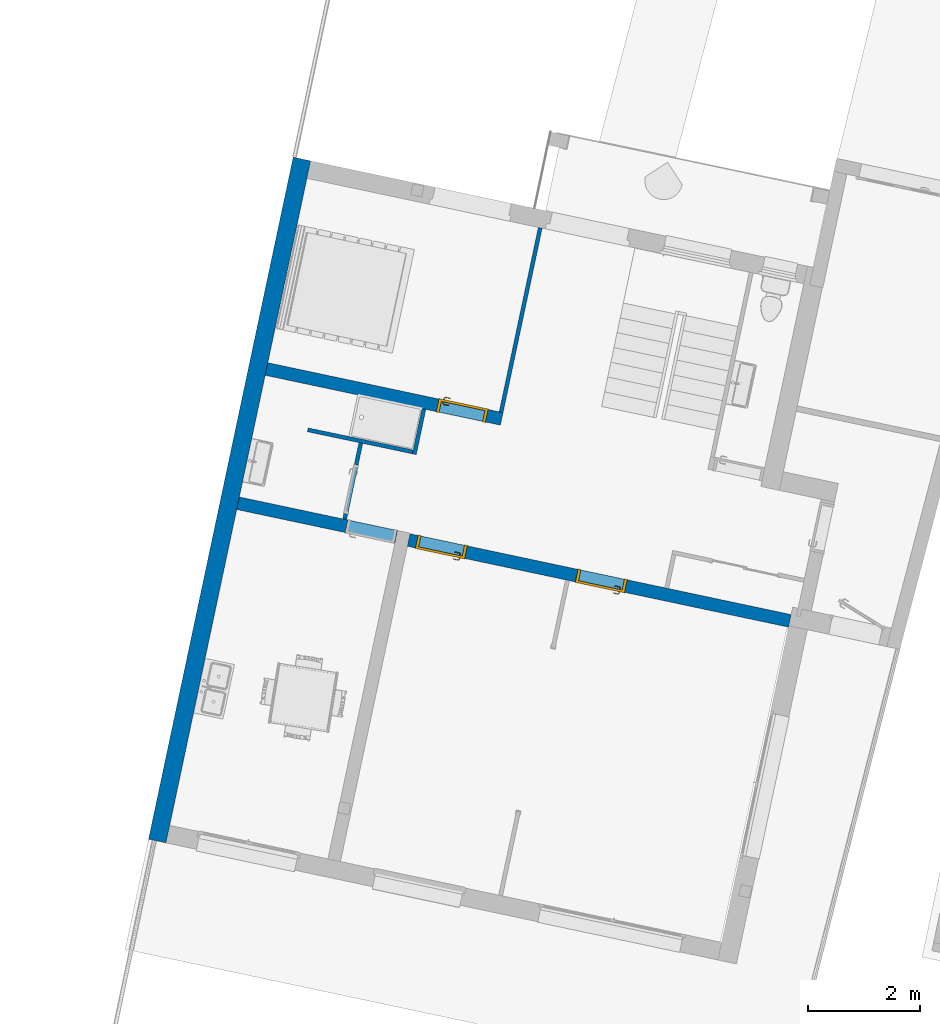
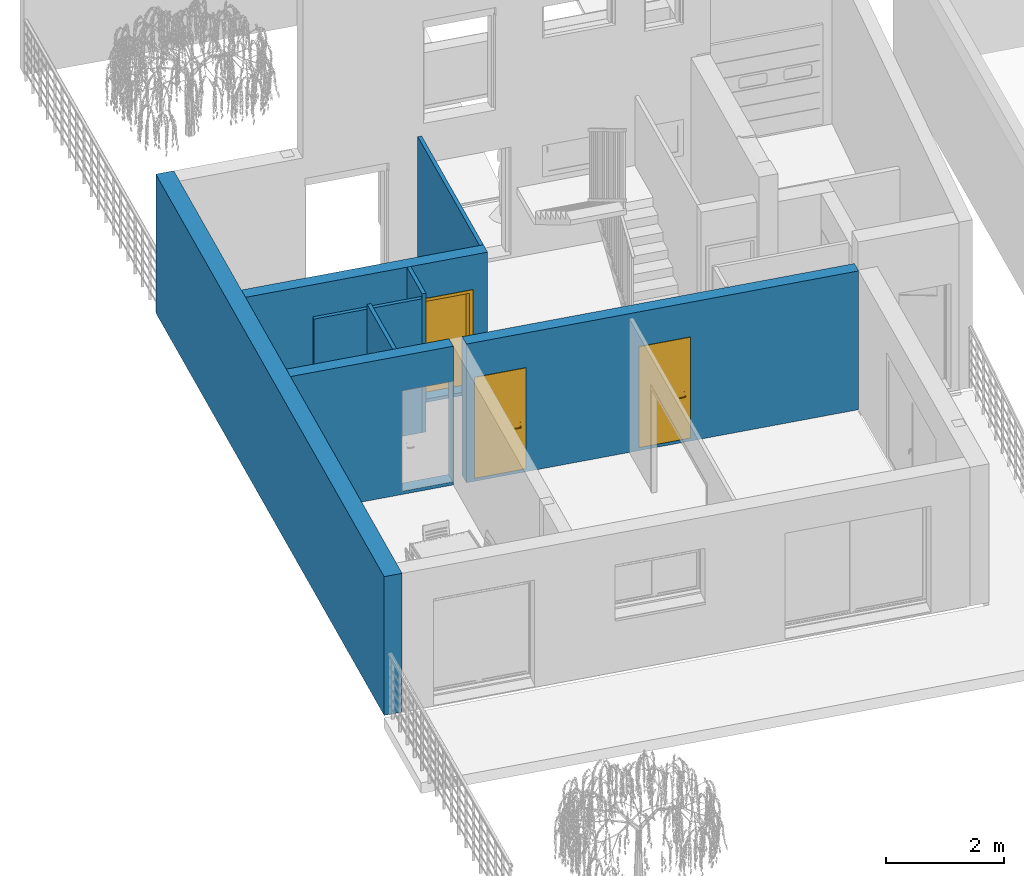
"""IFC2X3 building model written with IfcOpenShell, lengths in metres."""

from ifc_helpers import new_model, entity, si_unit, converted_unit, derived_unit, direction, frame, frame_2d, origin, place, context, subcontext, project, spatial, polyline, rectangle, outline, extrude, faceted_brep, source, transform, mapped, material, material_list, layer, layer_set, layer_usage, type_object, type_shapes, element, fill, save


model = new_model("IFC2X3")

# Units and contexts
model_context = context("Model", 3, precision=1e-05, world=origin(), true_north=direction((6.12303176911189e-17, 1.0)))
body_context = subcontext(model_context, "Body", "Model", "MODEL_VIEW")
ifc_project = project(units=[si_unit("LENGTHUNIT", "METRE"), si_unit("AREAUNIT", "SQUARE_METRE"), si_unit("VOLUMEUNIT", "CUBIC_METRE"), converted_unit("PLANEANGLEUNIT", "DEGREE", entity("IfcRatioMeasure", 0.0174532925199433), si_unit("PLANEANGLEUNIT", "RADIAN"), dimensions=[0, 0, 0, 0, 0, 0, 0]), si_unit("MASSUNIT", "GRAM", prefix="KILO"), derived_unit("MASSDENSITYUNIT", [(si_unit("MASSUNIT", "GRAM", prefix="KILO"), 1), (si_unit("LENGTHUNIT", "METRE"), -3)]), si_unit("TIMEUNIT", "SECOND"), si_unit("FREQUENCYUNIT", "HERTZ"), si_unit("THERMODYNAMICTEMPERATUREUNIT", "DEGREE_CELSIUS"), derived_unit("THERMALTRANSMITTANCEUNIT", [(si_unit("MASSUNIT", "GRAM", prefix="KILO"), 1), (si_unit("THERMODYNAMICTEMPERATUREUNIT", "KELVIN"), -1), (si_unit("TIMEUNIT", "SECOND"), -3)]), derived_unit("VOLUMETRICFLOWRATEUNIT", [(si_unit("LENGTHUNIT", "METRE"), 3), (si_unit("TIMEUNIT", "SECOND"), -1)]), si_unit("ELECTRICCURRENTUNIT", "AMPERE"), si_unit("ELECTRICVOLTAGEUNIT", "VOLT"), si_unit("POWERUNIT", "WATT"), si_unit("FORCEUNIT", "NEWTON", prefix="KILO"), si_unit("ILLUMINANCEUNIT", "LUX"), si_unit("LUMINOUSFLUXUNIT", "LUMEN"), si_unit("LUMINOUSINTENSITYUNIT", "CANDELA"), derived_unit("USERDEFINED", [(si_unit("MASSUNIT", "GRAM", prefix="KILO"), -1), (si_unit("LENGTHUNIT", "METRE"), -2), (si_unit("TIMEUNIT", "SECOND"), 3), (si_unit("LUMINOUSFLUXUNIT", "LUMEN"), 1)]), derived_unit("LINEARVELOCITYUNIT", [(si_unit("LENGTHUNIT", "METRE"), 1), (si_unit("TIMEUNIT", "SECOND"), -1)]), si_unit("PRESSUREUNIT", "PASCAL"), derived_unit("USERDEFINED", [(si_unit("LENGTHUNIT", "METRE"), -2), (si_unit("MASSUNIT", "GRAM", prefix="KILO"), 1), (si_unit("TIMEUNIT", "SECOND"), -2)])], contexts=[model_context])

# Site, building, storey
site_placement = place(None, origin())
site = spatial("IfcSite", under=ifc_project, at=site_placement, Name="Default", CompositionType="ELEMENT")
building_placement = place(site_placement, origin())
building = spatial("IfcBuilding", under=site, at=building_placement, CompositionType="ELEMENT")
storey_1_placement = place(building_placement, frame((0.0, 0.0, -0.0686871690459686)))
storey_1 = spatial("IfcBuildingStorey", under=building, at=storey_1_placement, Name="RDC", CompositionType="ELEMENT", Elevation=-0.0686871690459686)

# Walls
ifc_material_1 = material(Name="Enduit blanc cassé2")
ifc_layer_1 = layer(ifc_material_1, 0.02)
ifc_material_2 = material(Name="Parpaing")
ifc_layer_2 = layer(ifc_material_2, 0.2)
ifc_material_3 = material(Name="Isolant")
ifc_layer_3 = layer(ifc_material_3, 0.1)
ifc_layer_set_1 = layer_set([ifc_layer_1, ifc_layer_2, ifc_layer_3], Name="Mur de base:Ext. Parpaing 20 + Isolant 10 enduit blanc cassé")
ifc_layer_usage_1 = layer_usage(ifc_layer_set_1, "AXIS2", "POSITIVE", -0.16)
wall_type_1 = type_object("IfcWallType", Name="Mur de base:Ext. Parpaing 20 + Isolant 10 enduit blanc cassé", PredefinedType="STANDARD", material=ifc_layer_set_1)
wall_1_placement = place(storey_1_placement, frame((-19.6644701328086, 87.2507008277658, 0.0), z_axis=(0.0, 0.0, 1.0), x_axis=(-0.207484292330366, -0.978238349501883, 0.0)))
element("IfcWallStandardCase", 1, at=wall_1_placement, inside=storey_1, type_object=wall_type_1, material=ifc_layer_usage_1, Name="Mur de base:Ext. Parpaing 20 + Isolant 10 enduit blanc cassé", ObjectType="Mur de base:Ext. Parpaing 20 + Isolant 10 enduit blanc cassé", context=body_context, shape_type="SweptSolid", body=[
    extrude(rectangle(XDim=12.5, YDim=0.319999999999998, at=frame_2d((6.25000000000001, -3.60822483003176e-16), x_axis=(-1.0, 0.0))), origin(), (0.0, 0.0, 1.0), 2.86868716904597),
])
ifc_material_4 = material(Name="Blanc - Element de salle de bains")
ifc_layer_4 = layer(ifc_material_4, 0.07)
ifc_layer_set_2 = layer_set([ifc_layer_4], Name="Mur de base:Int.  Platre 70 mm en blanc")
ifc_layer_usage_2 = layer_usage(ifc_layer_set_2, "AXIS2", "POSITIVE", -0.035)
wall_type_2 = type_object("IfcWallType", Name="Mur de base:Int.  Platre 70 mm en blanc", PredefinedType="STANDARD", material=ifc_layer_set_2)
wall_2_placement = place(storey_1_placement, frame((-15.3910718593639, 86.0171946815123, 0.0), z_axis=(0.0, 0.0, 1.0), x_axis=(-0.207484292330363, -0.978238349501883, 0.0)))
element("IfcWallStandardCase", 2, at=wall_2_placement, inside=storey_1, type_object=wall_type_2, material=ifc_layer_usage_2, Name="Mur de base:Int.  Platre 70 mm en blanc", ObjectType="Mur de base:Int.  Platre 70 mm en blanc", context=body_context, shape_type="SweptSolid", body=[
    extrude(rectangle(XDim=3.38021271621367, YDim=0.069999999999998, at=frame_2d((1.69010635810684, 1.0096090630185e-15), x_axis=(-1.0, 0.0))), origin(), (0.0, 0.0, 1.0), 2.86868716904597),
])

# Wall, opening
ifc_layer_usage_3 = layer_usage(ifc_layer_set_2, "AXIS2", "POSITIVE", -0.035)
wall_3_placement = place(storey_1_placement, frame((-18.607890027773, 82.1591692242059, 0.0), z_axis=(0.0, 0.0, 1.0), x_axis=(-0.207484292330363, -0.978238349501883, 0.0)))
wall_3 = element("IfcWallStandardCase", 3, at=wall_3_placement, inside=storey_1, type_object=wall_type_2, material=ifc_layer_usage_3, Name="Mur de base:Int.  Platre 70 mm en blanc", ObjectType="Mur de base:Int.  Platre 70 mm en blanc", context=body_context, shape_type="SweptSolid", body=[
    extrude(outline(polyline([(1.39912705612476, -0.0350000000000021), (1.39912705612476, 0.0349999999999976), (0.0, 0.034999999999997), (0.00013794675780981, -0.0350000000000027), (1.39912705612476, -0.0350000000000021)])), origin(), (0.0, 0.0, 1.0), 2.86868716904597),
])
opening_1_placement = place(wall_3_placement, frame((1.29912721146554, 0.0350000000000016, 0.0686871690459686)))
element("IfcOpeningElement", 4, at=opening_1_placement, cuts=wall_3, Name="FR_Simple (R):83 x 204 - (80):1", ObjectType="Opening", context=body_context, shape_type="SweptSolid", body=[
    extrude(rectangle(XDim=2.075, YDim=0.9, at=frame_2d((1.0375, 0.450000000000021), x_axis=(1.0, 0.0))), frame((0.0, 0.0, 0.0), z_axis=(0.0, -1.0, 0.0), x_axis=(0.0, 0.0, 1.0)), (0.0, 0.0, 1.0), 0.07),
])

# Walls
ifc_layer_usage_4 = layer_usage(ifc_layer_set_2, "AXIS2", "POSITIVE", -0.035)
wall_4_placement = place(storey_1_placement, frame((-17.4767361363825, 82.7690393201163, 0.0), z_axis=(0.0, 0.0, 1.0), x_axis=(-0.207484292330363, -0.978238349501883, 0.0)))
element("IfcWallStandardCase", 5, at=wall_4_placement, inside=storey_1, type_object=wall_type_2, material=ifc_layer_usage_4, Name="Mur de base:Int.  Platre 70 mm en blanc", ObjectType="Mur de base:Int.  Platre 70 mm en blanc", context=body_context, shape_type="SweptSolid", body=[
    extrude(outline(polyline([(0.829501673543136, -0.0349999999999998), (0.829363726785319, 0.0349999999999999), (0.0, 0.0350000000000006), (0.0, -0.0349999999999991), (0.759501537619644, -0.0350000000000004), (0.829501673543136, -0.0349999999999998)])), origin(), (0.0, 0.0, 1.0), 2.86868716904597),
])
ifc_layer_usage_5 = layer_usage(ifc_layer_set_2, "AXIS2", "POSITIVE", -0.035)
wall_5_placement = place(storey_1_placement, frame((-17.6757535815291, 81.9990751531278, 0.0), z_axis=(0.0, 0.0, 1.0), x_axis=(-0.978645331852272, 0.205556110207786, 0.0)))
element("IfcWallStandardCase", 6, at=wall_5_placement, inside=storey_1, type_object=wall_type_2, material=ifc_layer_usage_5, Name="Mur de base:Int.  Platre 70 mm en blanc", ObjectType="Mur de base:Int.  Platre 70 mm en blanc", context=body_context, shape_type="SweptSolid", body=[
    extrude(outline(polyline([(1.92499993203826, -0.0349999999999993), (1.92499993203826, 0.035000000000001), (0.980139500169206, 0.0350000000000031), (0.910139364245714, 0.0349999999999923), (0.000137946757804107, 0.0350000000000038), (0.0, -0.0350000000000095), (1.92499993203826, -0.0349999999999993)])), origin(), (0.0, 0.0, 1.0), 2.76868716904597),
])

# Wall, opening
ifc_layer_5 = layer(ifc_material_1, 0.015)
ifc_layer_6 = layer(ifc_material_2, 0.2)
ifc_layer_7 = layer(ifc_material_1, 0.015)
ifc_layer_set_3 = layer_set([ifc_layer_5, ifc_layer_6, ifc_layer_7], Name="Mur de base:Ext. Parpaing 20 + 2 x 1.5")
ifc_layer_usage_6 = layer_usage(ifc_layer_set_3, "AXIS2", "POSITIVE", -0.115)
wall_type_3 = type_object("IfcWallType", Name="Mur de base:Ext. Parpaing 20 + 2 x 1.5", PredefinedType="STANDARD", material=ifc_layer_set_3)
wall_6_placement = place(storey_1_placement, frame((-16.082035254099, 82.5907816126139, 0.0), z_axis=(0.0, 0.0, 1.0), x_axis=(-0.978238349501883, 0.207484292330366, 0.0)))
wall_6 = element("IfcWallStandardCase", 7, at=wall_6_placement, inside=storey_1, type_object=wall_type_3, material=ifc_layer_usage_6, Name="Mur de base:Ext. Parpaing 20 + 2 x 1.5", ObjectType="Mur de base:Ext. Parpaing 20 + 2 x 1.5", context=body_context, shape_type="SweptSolid", body=[
    extrude(rectangle(XDim=4.31133522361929, YDim=0.229999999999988, at=frame_2d((2.15566761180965, -1.08246744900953e-15), x_axis=(-1.0, 0.0))), origin(), (0.0, 0.0, 1.0), 2.86868716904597),
])
opening_2_placement = place(wall_6_placement, frame((1.17388527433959, 0.115000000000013, 0.0686871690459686)))
opening_2 = element("IfcOpeningElement", 8, at=opening_2_placement, cuts=wall_6, Name="FR_Simple (R):83 x 204 - (80):1", ObjectType="Opening", context=body_context, shape_type="SweptSolid", body=[
    extrude(rectangle(XDim=2.075, YDim=0.9, at=frame_2d((1.0375, 0.45), x_axis=(1.0, 0.0))), frame((0.0, 0.0, 0.0), z_axis=(0.0, -1.0, 0.0), x_axis=(0.0, 0.0, 1.0)), (0.0, 0.0, 1.0), 0.23),
])

# Storey
storey_2_placement = place(building_placement, origin())
storey_2 = spatial("IfcBuildingStorey", under=building, at=storey_2_placement, Name="Plan des fondations  Maisons 1 et 2", CompositionType="ELEMENT", Elevation=0.0)

# Door
ifc_material_5 = material(Name="Poignée Porte")
ifc_material_6 = material(Name="Dormants Portes")
ifc_material_7 = material(Name="Panneaux Portes")
ifc_material_list_1 = material_list([ifc_material_5, ifc_material_6, ifc_material_7])
ifc_material_list_2 = material_list([ifc_material_5, ifc_material_6, ifc_material_7])
door_style = type_object("IfcDoorStyle", Name="83 x 204 - (80)", ConstructionType="NOTDEFINED", OperationType="SINGLE_SWING_RIGHT", ParameterTakesPrecedence=False, Sizeable=False, material=ifc_material_list_2)
shared_shape = source(origin(), body_context, "Body", "Brep", [
    faceted_brep([(0.810000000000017, -0.0130000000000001, 0.764641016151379), (0.820352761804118, -0.0130000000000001, 0.766003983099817), (0.830000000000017, -0.0130000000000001, 0.770000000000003), (0.830000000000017, -0.0130000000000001, 0.980000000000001), (0.820352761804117, -0.0130000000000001, 0.983996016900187), (0.810000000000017, -0.0130000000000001, 0.985358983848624), (0.799647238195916, -0.0130000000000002, 0.983996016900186), (0.790000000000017, -0.0130000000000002, 0.980000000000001), (0.790000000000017, -0.0130000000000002, 0.770000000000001), (0.799647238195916, -0.0130000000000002, 0.766003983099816), (0.830000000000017, -0.00800000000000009, 0.980000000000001), (0.830000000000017, -0.00800000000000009, 0.770000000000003), (0.820352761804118, -0.00800000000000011, 0.766003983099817), (0.810000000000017, -0.00800000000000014, 0.764641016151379), (0.799647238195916, -0.00800000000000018, 0.766003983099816), (0.790000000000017, -0.00800000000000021, 0.770000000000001), (0.790000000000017, -0.00800000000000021, 0.980000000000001), (0.799647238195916, -0.00800000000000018, 0.983996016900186), (0.810000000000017, -0.00800000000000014, 0.985358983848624), (0.820352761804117, -0.00800000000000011, 0.983996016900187)], [[[0, 1, 2, 3, 4, 5, 6, 7, 8, 9]], [[10, 11, 12, 13, 14, 15, 16, 17, 18, 19]], [[1, 12, 11, 2]], [[0, 13, 12, 1]], [[9, 14, 13, 0]], [[9, 8, 15, 14]], [[15, 8, 7, 16]], [[6, 17, 16, 7]], [[5, 18, 17, 6]], [[4, 19, 18, 5]], [[4, 3, 10, 19]], [[10, 3, 2, 11]]]),
    faceted_brep([(0.830000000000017, 0.0319999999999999, 0.770000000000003), (0.830000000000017, 0.0319999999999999, 0.980000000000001), (0.820352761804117, 0.0319999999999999, 0.983996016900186), (0.810000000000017, 0.0319999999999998, 0.985358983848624), (0.799647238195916, 0.0319999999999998, 0.983996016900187), (0.790000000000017, 0.0319999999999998, 0.980000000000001), (0.790000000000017, 0.0319999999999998, 0.770000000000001), (0.799647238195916, 0.0319999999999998, 0.766003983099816), (0.810000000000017, 0.0319999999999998, 0.764641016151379), (0.820352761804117, 0.0319999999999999, 0.766003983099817), (0.810000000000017, 0.0369999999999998, 0.985358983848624), (0.820352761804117, 0.0369999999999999, 0.983996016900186), (0.830000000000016, 0.0369999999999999, 0.980000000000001), (0.830000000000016, 0.0369999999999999, 0.770000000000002), (0.820352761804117, 0.0369999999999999, 0.766003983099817), (0.810000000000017, 0.0369999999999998, 0.764641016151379), (0.799647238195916, 0.0369999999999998, 0.766003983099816), (0.790000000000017, 0.0369999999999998, 0.770000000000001), (0.790000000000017, 0.0369999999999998, 0.980000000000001), (0.799647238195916, 0.0369999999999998, 0.983996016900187)], [[[0, 1, 2, 3, 4, 5, 6, 7, 8, 9]], [[10, 11, 12, 13, 14, 15, 16, 17, 18, 19]], [[4, 19, 18, 5]], [[3, 10, 19, 4]], [[2, 11, 10, 3]], [[2, 1, 12, 11]], [[12, 1, 0, 13]], [[9, 14, 13, 0]], [[8, 15, 14, 9]], [[7, 16, 15, 8]], [[7, 6, 17, 16]], [[17, 6, 5, 18]]]),
    faceted_brep([(0.807974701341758, -0.0130000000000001, 0.907780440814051), (0.812025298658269, -0.0130000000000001, 0.907780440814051), (0.816000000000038, -0.0130000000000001, 0.906999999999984), (0.816000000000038, -0.0130000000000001, 0.892999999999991), (0.812025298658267, -0.0130000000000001, 0.892219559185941), (0.807974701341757, -0.0130000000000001, 0.89221955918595), (0.80399999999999, -0.0130000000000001, 0.893000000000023), (0.803999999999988, -0.0130000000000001, 0.90699999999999), (0.812025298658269, -0.039004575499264, 0.907780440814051), (0.816000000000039, -0.0406509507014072, 0.906999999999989), (0.807974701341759, -0.0373267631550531, 0.907780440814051), (0.794298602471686, -0.0510028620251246, 0.907780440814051), (0.795976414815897, -0.0550534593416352, 0.907780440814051), (0.709142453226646, -0.0550534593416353, 0.90778044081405), (0.710820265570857, -0.0510028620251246, 0.90778044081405), (0.704342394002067, -0.0445249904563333, 0.90778044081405), (0.701478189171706, -0.0473891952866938, 0.90778044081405), (0.803999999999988, -0.0356803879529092, 0.90699999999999), (0.80399999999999, -0.0356803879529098, 0.893000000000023), (0.807974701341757, -0.0373267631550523, 0.89221955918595), (0.812025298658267, -0.0390045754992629, 0.89221955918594), (0.795976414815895, -0.0550534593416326, 0.89221955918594), (0.794298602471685, -0.0510028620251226, 0.89221955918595), (0.710820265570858, -0.0510028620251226, 0.89221955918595), (0.709142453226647, -0.0550534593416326, 0.89221955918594), (0.701478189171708, -0.0473891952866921, 0.89221955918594), (0.704342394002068, -0.044524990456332, 0.89221955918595), (0.816000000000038, -0.0406509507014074, 0.892999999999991), (0.797622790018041, -0.0590281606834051, 0.906999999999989), (0.792652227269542, -0.0470281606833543, 0.90699999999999), (0.792652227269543, -0.0470281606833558, 0.893000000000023), (0.79762279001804, -0.0590281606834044, 0.892999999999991), (0.752559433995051, -0.0531828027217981, 0.907878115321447), (0.757692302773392, -0.0590281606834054, 0.906999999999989), (0.707496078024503, -0.0590281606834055, 0.906999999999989), (0.752559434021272, -0.0470281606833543, 0.90699999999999), (0.712466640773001, -0.0470281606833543, 0.906999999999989), (0.752559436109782, -0.0470281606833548, 0.893000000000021), (0.712466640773, -0.0470281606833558, 0.893000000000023), (0.752559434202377, -0.0531828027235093, 0.892121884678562), (0.747426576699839, -0.0590281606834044, 0.892999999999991), (0.707496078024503, -0.0590281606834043, 0.892999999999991), (0.707152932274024, -0.0417144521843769, 0.89300000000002), (0.69866765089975, -0.0501997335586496, 0.892999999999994), (0.698667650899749, -0.0501997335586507, 0.906999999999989), (0.707152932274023, -0.0417144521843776, 0.906999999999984)], [[[0, 1, 2, 3, 4, 5, 6, 7]], [[2, 1, 8, 9]], [[1, 0, 10, 11, 12, 8]], [[13, 14, 15, 16]], [[0, 7, 17, 10]], [[18, 17, 7, 6]], [[5, 19, 18, 6]], [[5, 4, 20, 21, 22, 19]], [[23, 24, 25, 26]], [[3, 27, 20, 4]], [[9, 27, 3, 2]], [[9, 8, 12, 28]], [[10, 17, 29, 11]], [[30, 29, 17, 18]], [[18, 19, 22, 30]], [[20, 27, 31, 21]], [[28, 31, 27, 9]], [[12, 32, 33]], [[13, 33, 32]], [[33, 28, 12]], [[33, 13, 34]], [[11, 35, 32]], [[32, 12, 11]], [[32, 35, 14]], [[35, 11, 29]], [[36, 14, 35]], [[13, 32, 14]], [[30, 37, 38, 36, 35, 29]], [[39, 37, 22]], [[40, 41, 24]], [[40, 21, 31]], [[39, 21, 40]], [[23, 37, 39]], [[39, 24, 23]], [[30, 22, 37]], [[37, 23, 38]], [[21, 39, 22]], [[24, 39, 40]], [[31, 28, 33, 34, 41, 40]], [[42, 26, 25, 43, 44, 16, 15, 45]], [[13, 16, 44, 34]], [[36, 45, 15, 14]], [[42, 45, 36, 38]], [[38, 23, 26, 42]], [[24, 41, 43, 25]], [[44, 43, 41, 34]]]),
    faceted_brep([(0.812025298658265, 0.0369999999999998, 0.907780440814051), (0.807974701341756, 0.0369999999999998, 0.907780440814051), (0.803999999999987, 0.0369999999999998, 0.90699999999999), (0.803999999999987, 0.0369999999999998, 0.89300000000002), (0.807974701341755, 0.0369999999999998, 0.892219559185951), (0.812025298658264, 0.0369999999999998, 0.892219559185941), (0.816000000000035, 0.0369999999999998, 0.892999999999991), (0.816000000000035, 0.0369999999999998, 0.90699999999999), (0.803999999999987, 0.0594852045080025, 0.90699999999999), (0.803999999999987, 0.0594852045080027, 0.89300000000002), (0.807974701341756, 0.0611315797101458, 0.907780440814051), (0.812025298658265, 0.0628093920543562, 0.907780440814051), (0.795838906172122, 0.0789957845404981, 0.907780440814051), (0.794161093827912, 0.0749451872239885, 0.907780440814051), (0.71079312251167, 0.0749451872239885, 0.907780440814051), (0.70911531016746, 0.0789957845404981, 0.907780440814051), (0.701451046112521, 0.071331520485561, 0.907780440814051), (0.70431525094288, 0.0684673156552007, 0.907780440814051), (0.816000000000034, 0.0644557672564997, 0.90699999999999), (0.816000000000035, 0.0644557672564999, 0.892999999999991), (0.812025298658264, 0.0628093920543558, 0.892219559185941), (0.807974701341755, 0.0611315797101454, 0.892219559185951), (0.794161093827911, 0.0749451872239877, 0.892219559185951), (0.795838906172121, 0.0789957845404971, 0.892219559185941), (0.70911531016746, 0.0789957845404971, 0.89221955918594), (0.71079312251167, 0.0749451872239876, 0.89221955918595), (0.704315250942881, 0.0684673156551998, 0.89221955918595), (0.701451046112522, 0.07133152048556, 0.89221955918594), (0.792514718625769, 0.0709704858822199, 0.89300000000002), (0.792514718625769, 0.0709704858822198, 0.90699999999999), (0.797485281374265, 0.0829704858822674, 0.90699999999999), (0.797485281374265, 0.082970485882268, 0.892999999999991), (0.752477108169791, 0.0709704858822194, 0.90699999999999), (0.712439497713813, 0.0709704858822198, 0.90699999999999), (0.712439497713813, 0.0709704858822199, 0.89300000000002), (0.752477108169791, 0.0709704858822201, 0.89300000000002), (0.752477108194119, 0.0771249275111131, 0.907878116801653), (0.747399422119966, 0.0829704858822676, 0.90699999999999), (0.707468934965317, 0.0829704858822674, 0.90699999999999), (0.757554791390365, 0.0829704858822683, 0.892999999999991), (0.707468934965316, 0.082970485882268, 0.892999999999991), (0.752477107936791, 0.0771249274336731, 0.892121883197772), (0.698640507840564, 0.0741420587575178, 0.90699999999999), (0.698640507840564, 0.074142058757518, 0.892999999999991), (0.707125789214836, 0.0656567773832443, 0.89300000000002), (0.707125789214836, 0.0656567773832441, 0.90699999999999)], [[[0, 1, 2, 3, 4, 5, 6, 7]], [[8, 9, 3, 2]], [[1, 10, 8, 2]], [[1, 0, 11, 12, 13, 10]], [[14, 15, 16, 17]], [[7, 18, 11, 0]], [[18, 7, 6, 19]], [[6, 5, 20, 19]], [[5, 4, 21, 22, 23, 20]], [[24, 25, 26, 27]], [[4, 3, 9, 21]], [[28, 9, 8, 29]], [[8, 10, 13, 29]], [[18, 30, 12, 11]], [[31, 30, 18, 19]], [[19, 20, 23, 31]], [[21, 9, 28, 22]], [[28, 29, 32, 33, 34, 35]], [[36, 32, 13]], [[37, 38, 15]], [[37, 12, 30]], [[36, 12, 37]], [[14, 32, 36]], [[36, 15, 14]], [[29, 13, 32]], [[32, 14, 33]], [[12, 36, 13]], [[15, 36, 37]], [[30, 31, 39, 40, 38, 37]], [[23, 41, 39]], [[24, 39, 41]], [[39, 31, 23]], [[39, 24, 40]], [[22, 35, 41]], [[41, 23, 22]], [[41, 35, 25]], [[35, 22, 28]], [[34, 25, 35]], [[24, 41, 25]], [[17, 16, 42, 43, 27, 26, 44, 45]], [[44, 34, 33, 45]], [[33, 14, 17, 45]], [[15, 38, 42, 16]], [[42, 38, 40, 43]], [[24, 27, 43, 40]], [[34, 44, 26, 25]]]),
    faceted_brep([(0.900000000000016, 0.0, 0.0), (0.910000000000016, 0.0, 0.0), (0.910000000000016, -0.00799999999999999, 0.0), (0.865000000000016, -0.00799999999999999, 0.0), (0.865000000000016, 0.032, 0.0), (0.850000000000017, 0.032, 0.0), (0.850000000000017, 0.238000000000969, 0.0), (0.910000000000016, 0.238000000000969, 0.0), (0.910000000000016, 0.23000000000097, 0.0), (0.900000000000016, 0.23000000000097, 0.0), (0.900000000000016, 0.23000000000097, 2.075), (0.900000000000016, 0.0, 2.075), (0.910000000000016, 0.23000000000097, 2.085), (-0.00999999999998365, 0.23000000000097, 2.085), (-0.00999999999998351, 0.23000000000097, 0.0), (0.0, 0.23000000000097, 0.0), (0.0, 0.23000000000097, 2.075), (0.910000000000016, 0.238000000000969, 2.085), (0.850000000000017, 0.238000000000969, 2.025), (0.0500000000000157, 0.238000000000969, 2.025), (0.0500000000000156, 0.238000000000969, 0.0), (-0.00999999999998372, 0.238000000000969, 0.0), (-0.00999999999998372, 0.238000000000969, 2.085), (0.850000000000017, 0.032, 2.025), (0.865000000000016, 0.032, 2.04), (0.0350000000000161, 0.032, 2.04), (0.0350000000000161, 0.032, 0.0), (0.0500000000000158, 0.032, 0.0), (0.0500000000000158, 0.032, 2.025), (0.865000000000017, -0.00799999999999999, 2.04), (0.910000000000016, -0.00799999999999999, 2.085), (-0.00999999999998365, -0.00799999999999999, 2.085), (-0.00999999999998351, -0.00799999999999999, 0.0), (0.0350000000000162, -0.00799999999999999, 0.0), (0.0350000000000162, -0.00799999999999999, 2.04), (0.910000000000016, 0.0, 2.085), (0.0, 0.0, 2.075), (0.0, 0.0, 0.0), (-0.00999999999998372, 0.0, 0.0), (-0.00999999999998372, 0.0, 2.085)], [[[0, 1, 2, 3, 4, 5, 6, 7, 8, 9]], [[9, 10, 11, 0]], [[8, 12, 13, 14, 15, 16, 10, 9]], [[7, 17, 12, 8]], [[6, 18, 19, 20, 21, 22, 17, 7]], [[5, 23, 18, 6]], [[4, 24, 25, 26, 27, 28, 23, 5]], [[3, 29, 24, 4]], [[2, 30, 31, 32, 33, 34, 29, 3]], [[1, 35, 30, 2]], [[0, 11, 36, 37, 38, 39, 35, 1]], [[10, 16, 36, 11]], [[17, 22, 13, 12]], [[23, 28, 19, 18]], [[29, 34, 25, 24]], [[35, 39, 31, 30]], [[37, 15, 14, 21, 20, 27, 26, 33, 32, 38]], [[16, 15, 37, 36]], [[22, 21, 14, 13]], [[28, 27, 20, 19]], [[34, 33, 26, 25]], [[39, 38, 32, 31]]]),
    faceted_brep([(0.865000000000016, -0.00799999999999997, 2.04), (0.0350000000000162, -0.00799999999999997, 2.04), (0.0350000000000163, -0.00799999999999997, 0.0), (0.865000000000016, -0.00799999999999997, 0.0), (0.865000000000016, 0.032, 2.04), (0.865000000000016, 0.032, 0.0), (0.0350000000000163, 0.032, 0.0), (0.0350000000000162, 0.032, 2.04)], [[[0, 1, 2, 3]], [[4, 5, 6, 7]], [[3, 5, 4, 0]], [[2, 6, 5, 3]], [[1, 7, 6, 2]], [[0, 4, 7, 1]]]),
])
type_shapes(door_style, [shared_shape])
door_1_placement = place(opening_2_placement, frame((-0.900000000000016, -0.230000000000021, 0.0)))
door_1 = element("IfcDoor", 9, at=door_1_placement, inside=storey_2, type_object=door_style, material=ifc_material_list_1, Name="FR_Simple (R):83 x 204 - (80)", ObjectType="FR_Simple (R):83 x 204 - (80)", OverallHeight=2.075, OverallWidth=0.9, context=body_context, shape_type="MappedRepresentation", body=[
    mapped(shared_shape, transform((0.0, 0.0, 0.0), scale=1.0)),
])

fill(opening_2, door_1)

# Wall, openings, doors
ifc_layer_usage_7 = layer_usage(ifc_layer_set_3, "AXIS2", "NEGATIVE", 0.115)
wall_7_placement = place(storey_1_placement, frame((-17.750236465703, 80.419228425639, 0.0), z_axis=(0.0, 0.0, 1.0), x_axis=(0.978238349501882, -0.20748429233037, 0.0)))
wall_7 = element("IfcWallStandardCase", 10, at=wall_7_placement, inside=storey_1, type_object=wall_type_3, material=ifc_layer_usage_7, Name="Mur de base:Ext. Parpaing 20 + 2 x 1.5", ObjectType="Mur de base:Ext. Parpaing 20 + 2 x 1.5", context=body_context, shape_type="SweptSolid", body=[
    extrude(rectangle(XDim=6.98521205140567, YDim=0.229999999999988, at=frame_2d((3.49260602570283, 2.17187379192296e-15), x_axis=(-1.0, 0.0))), origin(), (0.0, 0.0, 1.0), 2.86868716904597),
])
opening_3_placement = place(wall_7_placement, frame((3.98059119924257, 0.115, 0.0686871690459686)))
opening_3 = element("IfcOpeningElement", 11, at=opening_3_placement, cuts=wall_7, Name="FR_Simple (R):83 x 204 - (80):1", ObjectType="Opening", context=body_context, shape_type="SweptSolid", body=[
    extrude(rectangle(XDim=2.075, YDim=0.9, at=frame_2d((1.0375, 0.45), x_axis=(1.0, 0.0))), frame((0.0, 0.0, 0.0), z_axis=(0.0, -1.0, 0.0), x_axis=(0.0, 0.0, 1.0)), (0.0, 0.0, 1.0), 0.23),
])
opening_4_placement = place(wall_7_placement, frame((1.04972410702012, 0.115, 0.0686871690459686)))
opening_4 = element("IfcOpeningElement", 12, at=opening_4_placement, cuts=wall_7, Name="FR_Simple (R):83 x 204 - (80):1", ObjectType="Opening", context=body_context, shape_type="SweptSolid", body=[
    extrude(rectangle(XDim=2.075, YDim=0.9, at=frame_2d((1.0375, 0.45), x_axis=(1.0, 0.0))), frame((0.0, 0.0, 0.0), z_axis=(0.0, -1.0, 0.0), x_axis=(0.0, 0.0, 1.0)), (0.0, 0.0, 1.0), 0.23),
])
ifc_material_list_3 = material_list([ifc_material_5, ifc_material_6, ifc_material_7])
door_2_placement = place(opening_3_placement, frame((-0.900000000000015, -0.229999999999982, 0.0)))
door_2 = element("IfcDoor", 13, at=door_2_placement, inside=storey_2, type_object=door_style, material=ifc_material_list_3, Name="FR_Simple (R):83 x 204 - (80)", ObjectType="FR_Simple (R):83 x 204 - (80)", OverallHeight=2.075, OverallWidth=0.899999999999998, context=body_context, shape_type="MappedRepresentation", body=[
    mapped(shared_shape, transform((0.0, 0.0, 0.0), scale=1.0)),
])
fill(opening_3, door_2)
ifc_material_list_4 = material_list([ifc_material_5, ifc_material_6, ifc_material_7])
door_3_placement = place(opening_4_placement, frame((-0.90000000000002, -0.229999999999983, 0.0)))
door_3 = element("IfcDoor", 14, at=door_3_placement, inside=storey_2, type_object=door_style, material=ifc_material_list_4, Name="FR_Simple (R):83 x 204 - (80)", ObjectType="FR_Simple (R):83 x 204 - (80)", OverallHeight=2.075, OverallWidth=0.899999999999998, context=body_context, shape_type="MappedRepresentation", body=[
    mapped(shared_shape, transform((0.0, 0.0, 0.0), scale=1.0)),
])
fill(opening_4, door_3)

# Wall, opening
ifc_layer_usage_8 = layer_usage(ifc_layer_set_3, "AXIS2", "NEGATIVE", 0.115)
wall_8_placement = place(storey_1_placement, frame((-20.8100476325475, 81.0784367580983, 0.0), z_axis=(0.0, 0.0, 1.0), x_axis=(0.978238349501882, -0.20748429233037, 0.0)))
wall_8 = element("IfcWallStandardCase", 15, at=wall_8_placement, inside=storey_1, type_object=wall_type_3, material=ifc_layer_usage_8, Name="Mur de base:Ext. Parpaing 20 + 2 x 1.5", ObjectType="Mur de base:Ext. Parpaing 20 + 2 x 1.5", context=body_context, shape_type="SweptSolid", body=[
    extrude(rectangle(XDim=2.90000000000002, YDim=0.229999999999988, at=frame_2d((1.45000000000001, -1.65145674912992e-15), x_axis=(-1.0, 0.0))), origin(), (0.0, 0.0, 1.0), 2.86868716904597),
])
opening_5_placement = place(wall_8_placement, frame((2.89, 0.115000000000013, 0.0686871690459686)))
element("IfcOpeningElement", 16, at=opening_5_placement, cuts=wall_8, Name="FR_Simple (R):83 x 204 - (80):1", ObjectType="Opening", context=body_context, shape_type="SweptSolid", body=[
    extrude(rectangle(XDim=2.075, YDim=0.9, at=frame_2d((1.0375, 0.45), x_axis=(1.0, 0.0))), frame((0.0, 0.0, 0.0), z_axis=(0.0, -1.0, 0.0), x_axis=(0.0, 0.0, 1.0)), (0.0, 0.0, 1.0), 0.23),
])

save(model, "model.ifc")
